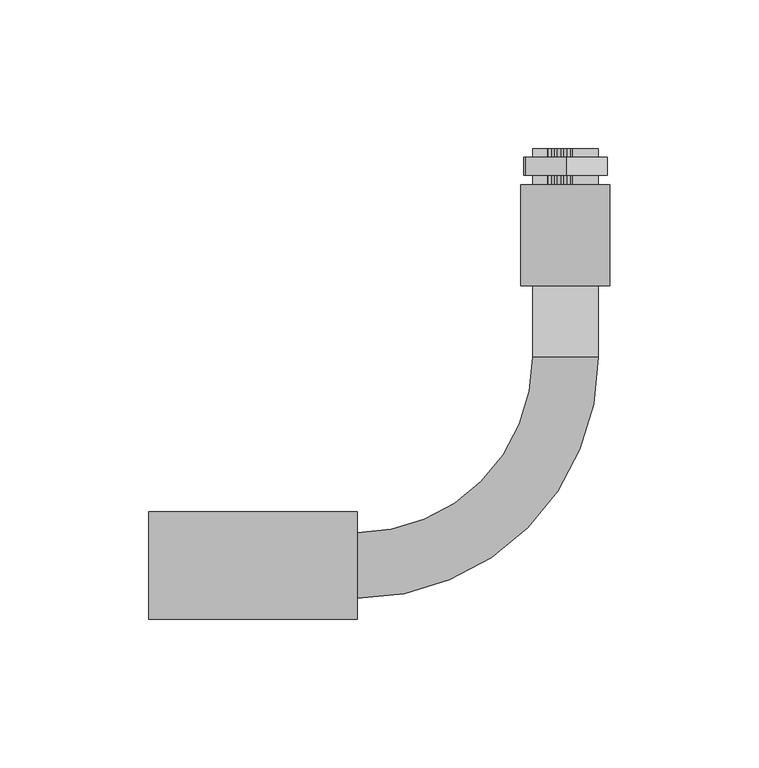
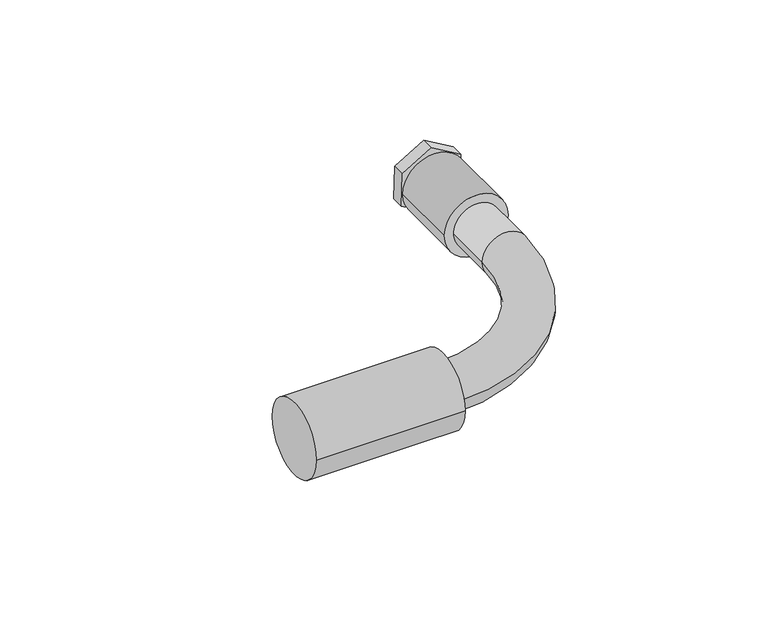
"""IFC4 building model written with IfcOpenShell, lengths in millimetres: cable carrier fitting geometry, Муфта_гибкая_труба-коробка_IP44 : Муфта гибкая труба-коробка D20мм."""

from ifc_helpers import new_model, si_unit, point, frame, frame_2d, origin, origin_2d, place, context, project, spatial, polyline, circle_curve, ellipse_curve, trimmed, segment, composite_curve, outline, extrude, source, transform, mapped, element, save
from ifc_brep_helpers import plane_surface, cylinder_surface, revolved_surface, advanced_brep


def cable_carrier_fitting_efb1d8cd(model_context):
    return source(origin(), model_context, "Body", "SolidModel", [
        extrude(outline(polyline([(-8.0356639, -14.0), (-15.7816306, 0.0), (-8.0356639, 14.0), (7.9643361, 14.0), (16.0883696, 0.2159483), (7.9584111, -13.5646095), (-8.0356639, -14.0)])), frame((0.0, 131.1018563, 0.0), z_axis=(0.0, 1.0, 0.0), x_axis=(0.0, 0.0, 1.0)), (0.0, 0.0, 1.0), 6.0),
        extrude(outline(composite_curve([segment(trimmed(circle_curve(frame_2d((0.0032191, -0.0900025)), 10.5), [point((0.0032191, 10.4099975))], [point((0.0032191, -10.5900025))], False, "CARTESIAN"), True, "CONTINUOUS"), segment(trimmed(circle_curve(frame_2d((0.0032191, -0.0900025)), 10.5), [point((0.0032191, -10.5900025))], [point((0.0032191, 10.4099975))], False, "CARTESIAN"), True, "CONTINUOUS")], self_intersect=False)), frame((0.0, 128.0, 0.0), z_axis=(0.0, 1.0, 0.0), x_axis=(0.0, 0.0, 1.0)), (0.0, 0.0, 1.0), 12.0),
        advanced_brep(
        [(14.9094864, 128.0, 0.0), (-15.0905136, 128.0, 0.0), (-10.0905136, 128.0, 0.0057257), (9.9094864, 128.0, 0.0057257), (14.9094864, 94.0, 0.0), (-15.0905136, 94.0, 0.0), (9.9094864, 97.5421201, 0.0057257), (-10.0905136, 97.5421201, 0.0057257)],
        [
            (0, 1, circle_curve(frame((-0.0905136, 128.0, 0.0), z_axis=(0.0, 1.0, 0.0), x_axis=(-1.0, 0.0, 0.0)), 15.0)),
            (1, 0, circle_curve(frame((-0.0905136, 128.0, 0.0), z_axis=(0.0, 1.0, 0.0), x_axis=(-1.0, 0.0, 0.0)), 15.0)),
            (2, 3, circle_curve(frame((-0.0905136, 128.0, 0.0057257), z_axis=(0.0, -1.0, 0.0), x_axis=(-1.0, 0.0, 0.0)), 10.0)),
            (3, 2, circle_curve(frame((-0.0905136, 128.0, 0.0057257), z_axis=(0.0, -1.0, 0.0), x_axis=(-1.0, 0.0, 0.0)), 10.0)),
            (4, 5, circle_curve(frame((-0.0905136, 94.0, 0.0), z_axis=(0.0, -1.0, 0.0), x_axis=(-1.0, 0.0, 0.0)), 15.0)),
            (5, 4, circle_curve(frame((-0.0905136, 94.0, 0.0), z_axis=(0.0, -1.0, 0.0), x_axis=(-1.0, 0.0, 0.0)), 15.0)),
            (0, 4),
            (5, 1),
            (6, 7, circle_curve(frame((-0.0905136, 97.5421201, 0.0057257), z_axis=(0.0, 1.0, 0.0), x_axis=(-1.0, 0.0, 0.0)), 10.0)),
            (7, 6, circle_curve(frame((-0.0905136, 97.5421201, 0.0057257), z_axis=(0.0, 1.0, 0.0), x_axis=(-1.0, 0.0, 0.0)), 10.0)),
            (6, 3),
            (2, 7),
        ],
        [
            plane_surface(frame((-15.0905136, 128.0, 0.0), z_axis=(0.0, 1.0, 0.0), x_axis=(0.0, 0.0, 1.0))),
            plane_surface(frame((-15.0905136, 94.0, 0.0), z_axis=(0.0, -1.0, 0.0), x_axis=(0.0, 0.0, -1.0))),
            cylinder_surface(frame((-0.0905136, 94.0, 0.0), z_axis=(0.0, 1.0, 0.0), x_axis=(-1.0, 0.0, 0.0)), 15.0),
            plane_surface(frame((-10.0905136, 97.5421201, 0.0057257), z_axis=(0.0, 1.0, 0.0), x_axis=(0.0, 0.0, -1.0))),
            revolved_surface(polyline([(-10.0905136, 128.0, 0.0057257), (-10.0905136, 97.5421201, 0.0057257)]), (-0.0905136, 97.5421201, 0.0057257), (0.0, 1.0, 0.0)),
        ],
        [
            (0, [[1, 2], [3, 4]]),
            (1, [[5, 6]]),
            (2, [[-1, 7, -6, 8]]),
            (2, [[-2, -8, -5, -7]]),
            (3, [[9, 10]]),
            (4, [[-9, 11, -3, 12]]),
            (4, [[-10, -12, -4, -11]]),
        ],
    ),
        extrude(outline(composite_curve([segment(trimmed(circle_curve(origin_2d(), 18.0), [point((-18.0, 0.0))], [point((18.0, 0.0))], False, "CARTESIAN"), True, "CONTINUOUS"), segment(trimmed(circle_curve(origin_2d(), 18.0), [point((18.0, 0.0))], [point((-18.0, 0.0))], False, "CARTESIAN"), True, "CONTINUOUS")], self_intersect=False)), frame((-140.0, 0.0, 0.0), z_axis=(1.0, 0.0, 0.0), x_axis=(0.0, 1.0, 0.0)), (0.0, 0.0, 1.0), 70.0),
        advanced_brep(
        [(-140.0, -11.0, 0.0), (-140.0, 11.0, 0.0), (-70.0, -11.0, 0.0), (-70.0, 11.0, 0.0), (-11.0, 70.0, 0.0), (11.0, 70.0, 0.0), (11.0, 140.0, 0.0), (-11.0, 140.0, 0.0)],
        [
            (0, 1, circle_curve(frame((-140.0, 0.0, 0.0), z_axis=(-1.0, 0.0, 0.0), x_axis=(0.0, 1.0, 0.0)), 11.0)),
            (1, 0, circle_curve(frame((-140.0, 0.0, 0.0), z_axis=(-1.0, 0.0, 0.0), x_axis=(0.0, 1.0, 0.0)), 11.0)),
            (0, 2),
            (2, 3, circle_curve(frame((-70.0, 0.0, 0.0), z_axis=(-1.0, 0.0, 0.0), x_axis=(0.0, 1.0, 0.0)), 11.0)),
            (3, 1),
            (3, 2, circle_curve(frame((-70.0, 0.0, 0.0), z_axis=(-1.0, 0.0, 0.0), x_axis=(0.0, 1.0, 0.0)), 11.0)),
            (4, 3, circle_curve(frame((-70.0, 70.0, 0.0), z_axis=(0.0, 0.0, -1.0), x_axis=(0.0, -1.0, 0.0)), 59.0)),
            (2, 5, circle_curve(frame((-70.0, 70.0, 0.0), z_axis=(0.0, 0.0, 1.0), x_axis=(0.0, -1.0, 0.0)), 81.0)),
            (5, 4, circle_curve(frame((0.0, 70.0, 0.0), z_axis=(0.0, -1.0, 0.0), x_axis=(-1.0, 0.0, 0.0)), 11.0)),
            (4, 5, circle_curve(frame((0.0, 70.0, 0.0), z_axis=(0.0, -1.0, 0.0), x_axis=(-1.0, 0.0, 0.0)), 11.0)),
            (6, 7, circle_curve(frame((0.0, 140.0, 0.0), z_axis=(0.0, 1.0, 0.0), x_axis=(-1.0, 0.0, 0.0)), 11.0)),
            (7, 6, circle_curve(frame((0.0, 140.0, 0.0), z_axis=(0.0, 1.0, 0.0), x_axis=(-1.0, 0.0, 0.0)), 11.0)),
            (5, 6),
            (7, 4),
        ],
        [
            plane_surface(frame((-140.0, 0.0, 0.0), z_axis=(-1.0, 0.0, 0.0), x_axis=(0.0, 0.0, 1.0))),
            cylinder_surface(frame((-140.0, 0.0, 0.0), z_axis=(-1.0, 0.0, 0.0), x_axis=(0.0, 1.0, 0.0)), 11.0),
            revolved_surface(trimmed(ellipse_curve(frame((-70.0, 0.0, 0.0), z_axis=(-1.0, 0.0, 0.0), x_axis=(0.0, 1.0, 0.0)), 11.0, 11.0), [point((-70.0, -11.0, 0.0))], [point((-70.0, 11.0, 0.0))], True, "CARTESIAN"), (-70.0, 70.0, 0.0), (0.0, 0.0, 1.0)),
            revolved_surface(trimmed(ellipse_curve(frame((-70.0, 0.0, 0.0), z_axis=(-1.0, 0.0, 0.0), x_axis=(0.0, 1.0, 0.0)), 11.0, 11.0), [point((-70.0, 11.0, 0.0))], [point((-70.0, -11.0, 0.0))], True, "CARTESIAN"), (-70.0, 70.0, 0.0), (0.0, 0.0, 1.0)),
            plane_surface(frame((0.0, 140.0, 0.0), z_axis=(0.0, 1.0, 0.0), x_axis=(0.0, 0.0, 1.0))),
            cylinder_surface(frame((0.0, 70.0, 0.0), z_axis=(0.0, -1.0, 0.0), x_axis=(-1.0, 0.0, 0.0)), 11.0),
        ],
        [
            (0, [[1, 2]]),
            (1, [[-1, 3, 4, 5]]),
            (1, [[-2, -5, 6, -3]]),
            (2, [[7, -4, 8, 9]]),
            (3, [[-8, -6, -7, 10]]),
            (4, [[11, 12]]),
            (5, [[-9, 13, -12, 14]]),
            (5, [[-10, -14, -11, -13]]),
        ],
    ),
    ])


if __name__ == "__main__":
    model = new_model("IFC4")
    model_context = context("Model", 3, world=origin())
    ifc_project = project(units=[si_unit("LENGTHUNIT", "METRE", prefix="MILLI")], contexts=[model_context])
    site = spatial("IfcSite", under=ifc_project)
    building = spatial("IfcBuilding", under=site)
    placement = place(None, origin())
    cable_carrier_fitting_shape = cable_carrier_fitting_efb1d8cd(model_context)
    element("IfcCableCarrierFitting", 1, ObjectType="Муфта_гибкая_труба-коробка_IP44 : Муфта гибкая труба-коробка D20мм", at=placement, inside=building, context=model_context, shape_type="MappedRepresentation", body=[
        mapped(cable_carrier_fitting_shape, transform((0.0, 0.0, 0.0), x_axis=(1.0, 0.0, 0.0), y_axis=(0.0, 1.0, 0.0), z_axis=(0.0, 0.0, 1.0))),
    ])
    save(model, "model.ifc")
